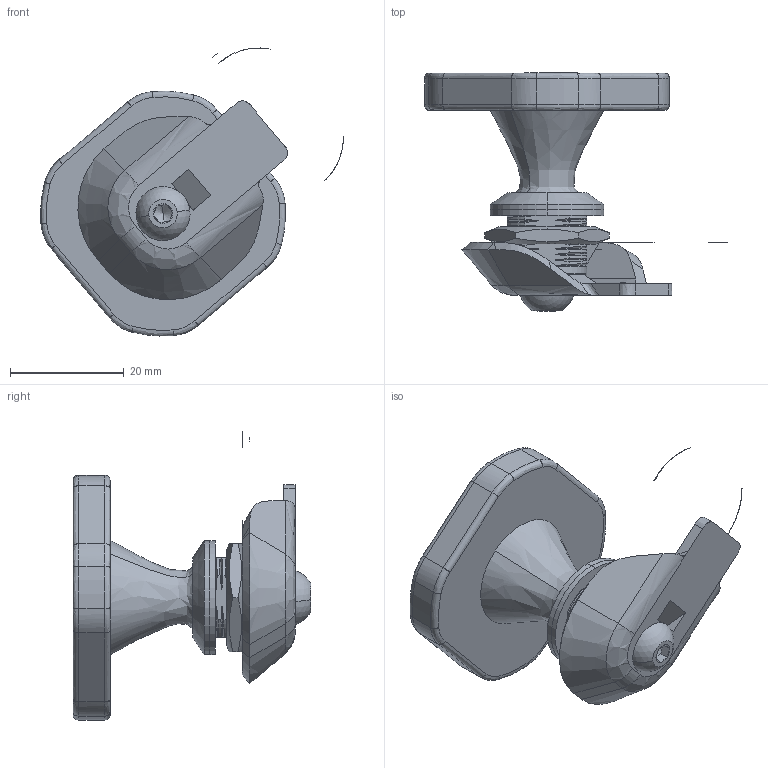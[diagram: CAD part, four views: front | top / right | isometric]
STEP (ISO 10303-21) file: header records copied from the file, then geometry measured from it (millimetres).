
FILE_DESCRIPTION (( 'STEP AP203' ), '1' );
FILE_NAME ('SK1-020.STEP', '2023-12-06T05:46:00', ( '' ), ( '' ), 'SwSTEP 2.0', 'SolidWorks 2019', '' );
FILE_SCHEMA (( 'CONFIG_CONTROL_DESIGN' ));
Length unit declared in the file: millimetre
Products named in the file (10): 錨璃5; SK1-020; 錨璃3; 錨璃30^SK1-020蚾饜极2; 坶え; 錨璃6; GB／T70．2-2000内六角平圆头螺钉M5×8; 錨璃4; 錨璃8; 錨璃2
Assembly tree (8 placements, depth 2):
  SK1-020
    錨璃8
    錨璃6
    錨璃5
    錨璃4
    坶え
    錨璃2
    錨璃3
    GB／T70．2-2000内六角平圆头螺钉M5×8
  錨璃30^SK1-020蚾饜极2
Bounding box: 53.16 x 41.75 x 50.57 mm (x, y, z)
Volume: 15965.1 mm3; surface area: 10672.3 mm2
Topology: 11 solids, 11 shells, 444 faces, 1172 edges, 747 vertices
Faces by surface type: bspline 188, cylinder 129, plane 93, cone 26, torus 6, sphere 2
Entity records: 78313 total; most frequent: CARTESIAN_POINT 68615, ORIENTED_EDGE 2336, EDGE_CURVE 1168, DIRECTION 1112, VERTEX_POINT 747, B_SPLINE_CURVE_WITH_KNOTS 465, EDGE_LOOP 459, ADVANCED_FACE 444
